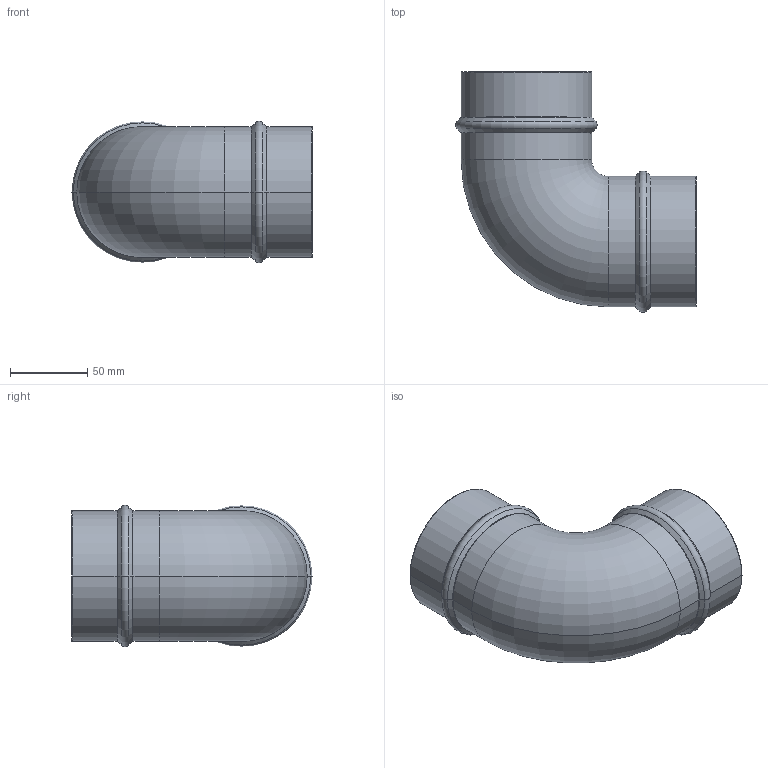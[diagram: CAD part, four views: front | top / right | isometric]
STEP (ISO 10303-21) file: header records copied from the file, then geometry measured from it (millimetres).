
FILE_DESCRIPTION((''),'2;1');
FILE_NAME('2014700300','2017-05-09T',('Administrator'),(''),'PRO/ENGINEER BY PARAMETRIC TECHNOLOGY CORPORATION, 2009360','PRO/ENGINEER BY PARAMETRIC TECHNOLOGY CORPORATION, 2009360','');
FILE_SCHEMA(('AUTOMOTIVE_DESIGN_CC2 { 1 2 10303 214 -1 1 5 2 }'));
Length unit declared in the file: millimetre
Products named in the file (1): 2014700300
Bounding box: 155.74 x 155.74 x 91.47 mm (x, y, z)
Volume: 163417.6 mm3; surface area: 104070.3 mm2
Topology: 1 solids, 1 shells, 42 faces, 84 edges, 44 vertices
Faces by surface type: torus 20, cylinder 12, cone 8, plane 2
Entity records: 1371 total; most frequent: DIRECTION 232, CARTESIAN_POINT 170, ORIENTED_EDGE 168, AXIS2_PLACEMENT_3D 106, PRESENTATION_STYLE_ASSIGNMENT 85, STYLED_ITEM 85, CURVE_STYLE 84, EDGE_CURVE 84
